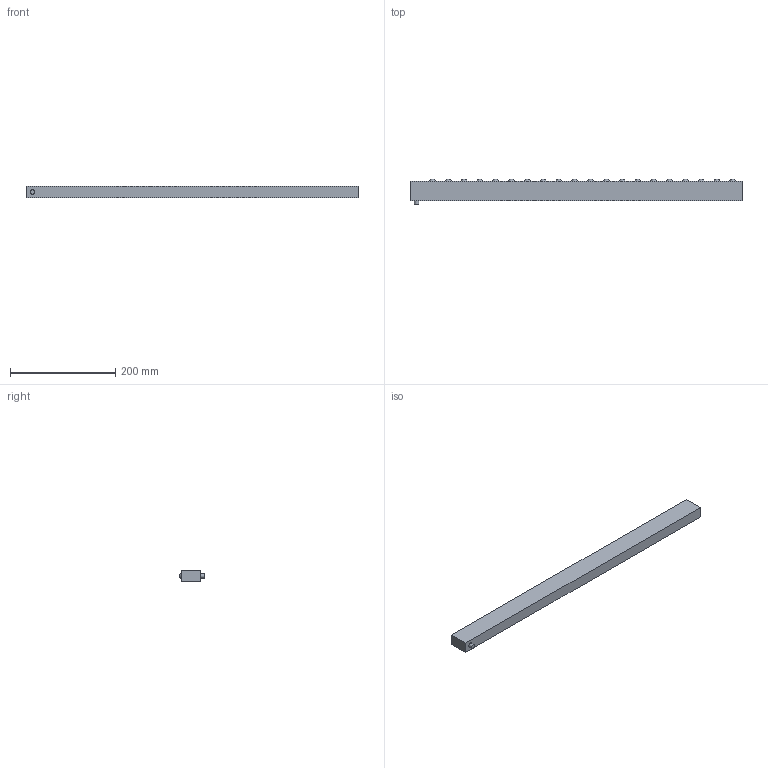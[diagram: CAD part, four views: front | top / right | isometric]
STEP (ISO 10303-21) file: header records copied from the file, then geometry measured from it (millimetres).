
FILE_DESCRIPTION(/* description */ (''),/* implementation_level */ '2;1');
FILE_NAME(/* name */ 'V:\Shrinkwrap\EMB\EMB - SHRINKWRAP\EMB22\EMB22-20_Shrinkwrap_1.stp',/* time_stamp */ '2022-08-12T10:53:33+02:00',/* author */ ('cw'),/* organization */ (''),/* preprocessor_version */ 'ST-DEVELOPER v17',/* originating_system */ 'Autodesk Inventor 2019',/* authorisation */ '');
FILE_SCHEMA (('AUTOMOTIVE_DESIGN { 1 0 10303 214 3 1 1 }'));
Length unit declared in the file: millimetre
Products named in the file (1): EMB22-20_Shrinkwrap_1
Bounding box: 630 x 48.46 x 21.8 mm (x, y, z)
Volume: 520274.3 mm3; surface area: 79805.1 mm2
Topology: 1 solids, 1 shells, 34 faces, 48 edges, 42 vertices
Faces by surface type: sphere 20, plane 10, cylinder 4
Full cylindrical faces by diameter (mm): 8 x1, 9 x1, 13 x1, 14 x1
Entity records: 868 total; most frequent: DIRECTION 146, CARTESIAN_POINT 123, ORIENTED_EDGE 92, AXIS2_PLACEMENT_3D 65, EDGE_LOOP 58, EDGE_CURVE 46, VERTEX_POINT 38, STYLED_ITEM 37
